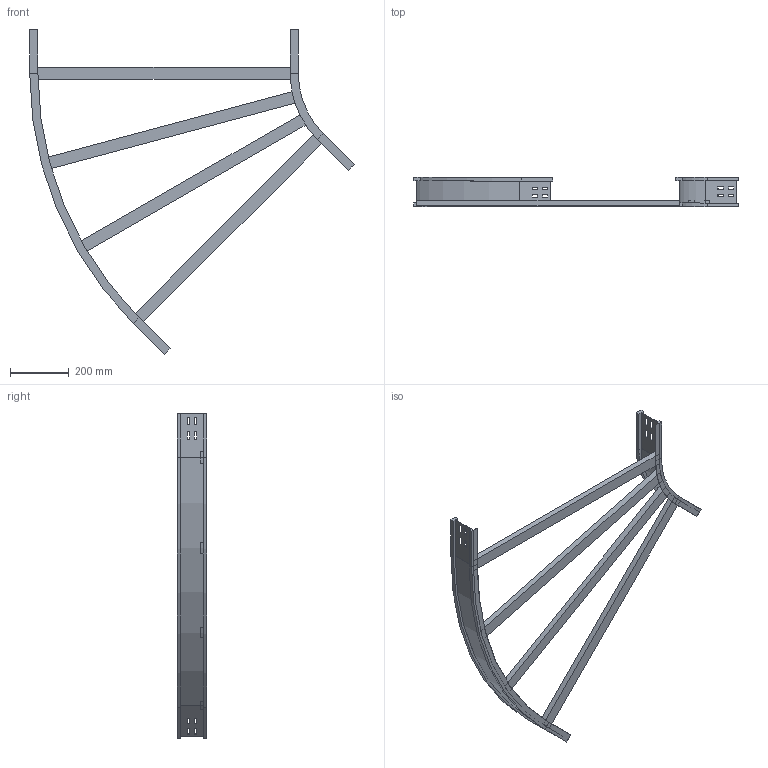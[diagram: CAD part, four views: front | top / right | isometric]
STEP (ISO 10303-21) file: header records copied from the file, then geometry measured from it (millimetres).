
FILE_DESCRIPTION (( 'STEP AP214' ), '1' );
FILE_NAME ('11S3D900.step', '2025-02-21T16:03:29', ( '' ), ( '' ), 'SwSTEP 2.0', 'SolidWorks 2023', '' );
FILE_SCHEMA (( 'AUTOMOTIVE_DESIGN' ));
Length unit declared in the file: millimetre
Products named in the file (4): LONGH.ESTERNO 45°_H100_R300+900; 11S3D900; LONGH.INTERNO 45°_H100_R300; TRAVERSINO_900
Assembly tree (6 placements, depth 2):
  11S3D900
    LONGH.INTERNO 45°_H100_R300
    LONGH.ESTERNO 45°_H100_R300+900
    TRAVERSINO_900  x4
Bounding box: 1109.3 x 100 x 1110.96 mm (x, y, z)
Volume: 3843716.1 mm3; surface area: 965275.9 mm2
Topology: 6 solids, 6 shells, 164 faces, 408 edges, 256 vertices
Faces by surface type: plane 152, cylinder 12
Entity records: 4485 total; most frequent: CARTESIAN_POINT 759, ORIENTED_EDGE 744, DIRECTION 706, EDGE_CURVE 372, LINE 348, VECTOR 348, VERTEX_POINT 232, AXIS2_PLACEMENT_3D 179
